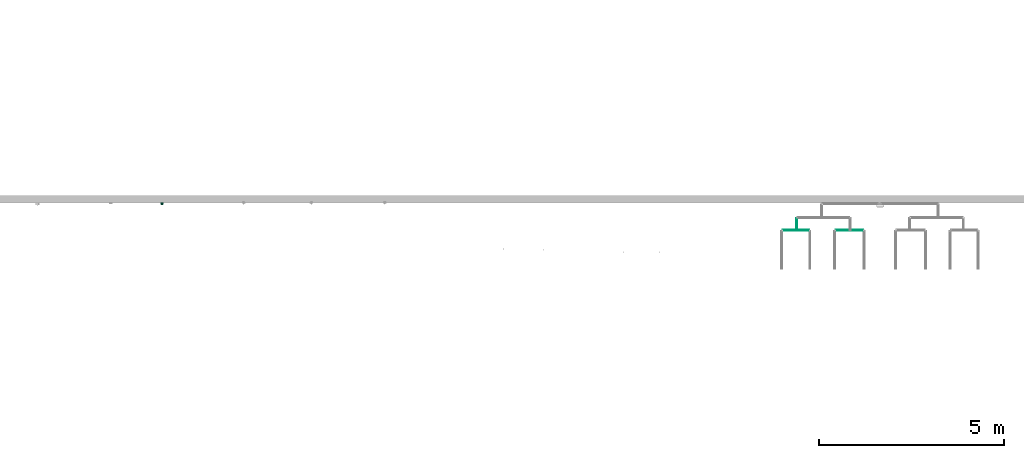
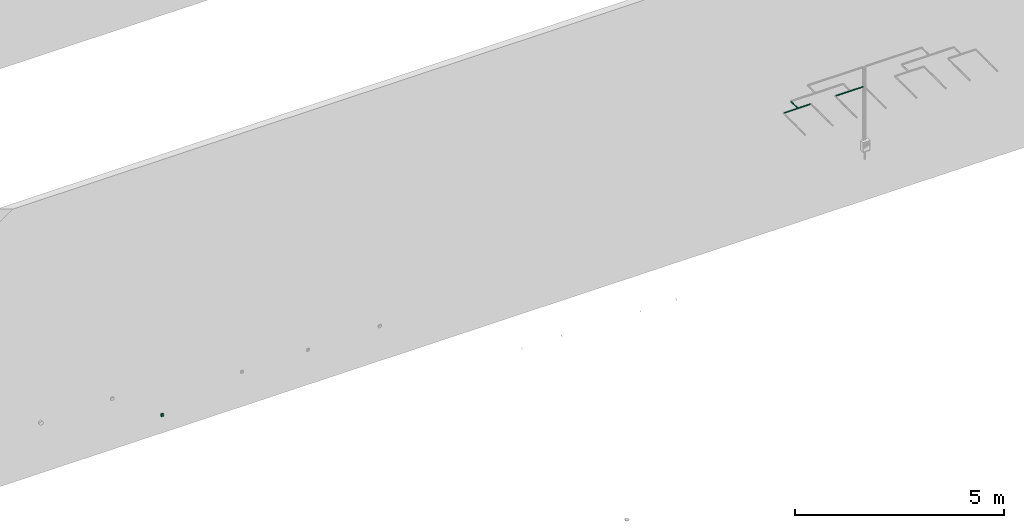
# One storey, part 15 of 197: 3 flow segments, 1 distribution control element.
"""IFC2X3 building model written with IfcOpenShell, lengths in metres."""

from ifc_helpers import new_model, entity, si_unit, converted_unit, direction, frame, frame_2d, origin, origin_2d_with_axis, place, context, subcontext, project, spatial, polyline, rectangle, circle, hollow_circle, outline, extrude, source, transform, mapped, material, material_list, type_object, type_shapes, element, save


model = new_model("IFC2X3")

# Units and contexts
model_context = context("Model", 3, precision=1e-05, world=origin(), true_north=direction((6.123031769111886e-17, 1.0)))
body_context = subcontext(model_context, "Body", "Model", "MODEL_VIEW")
ifc_project = project(units=[si_unit("LENGTHUNIT", "METRE"), converted_unit("PLANEANGLEUNIT", "DEGREE", entity("IfcPlaneAngleMeasure", 0.017453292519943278), si_unit("PLANEANGLEUNIT", "RADIAN"), dimensions=[0, 0, 0, 0, 0, 0, 0]), si_unit("AREAUNIT", "SQUARE_METRE")], contexts=[model_context])

# Site, building, storey
site_placement = place(None, origin())
site = spatial("IfcSite", under=ifc_project, at=site_placement, Name="Default", CompositionType="ELEMENT")
building_placement = place(site_placement, origin())
building = spatial("IfcBuilding", under=site, at=building_placement, CompositionType="ELEMENT")
storey_placement = place(building_placement, origin())
storey = spatial("IfcBuildingStorey", under=building, at=storey_placement, Name="Niveau 0", CompositionType="ELEMENT", Elevation=0.0)

# Distribution control element
ifc_material_1 = material(Name="BETCE-INTERIEUR AIMANT-NOIR")
ifc_material_2 = material(Name="BETCE-BOUTON-ROUGE")
ifc_material_3 = material(Name="BETCE-EXTERIEUR AIMANT-CHROME")
ifc_material_4 = material(Name="BETCE-ENVELOPPE-BEIGE")
ifc_material_list = material_list([ifc_material_1, ifc_material_2, ifc_material_3, ifc_material_4])
alarm_type = type_object("IfcAlarmType", Name="Ventouse:Ventouse", PredefinedType="NOTDEFINED", material=ifc_material_list)
shared_shape = source(origin(), body_context, "Body", "SweptSolid", [
    extrude(hollow_circle(Radius=0.013000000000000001, WallThickness=0.006000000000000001, at=frame_2d((0.0, -5.921929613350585e-17), x_axis=(1.0, 0.0))), frame((0.0, -0.042, 0.02877170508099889), z_axis=(0.0, 1.0, 0.0), x_axis=(1.0, 0.0, 0.0)), (0.0, 0.0, 1.0), 0.002000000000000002),
    extrude(outline(polyline([(-0.0035000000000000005, -0.0035000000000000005), (0.0034999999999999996, -0.0035000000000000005), (0.0034999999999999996, 0.0035000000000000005), (-0.0035000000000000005, 0.0035000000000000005), (-0.0035000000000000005, -0.0035000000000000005)]), holes=[polyline([(-0.0025000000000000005, 0.0025000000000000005), (0.0025000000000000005, 0.0025000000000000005), (0.0025000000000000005, -0.0025000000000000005), (-0.0025000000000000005, -0.0025000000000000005), (-0.0025000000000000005, 0.0025000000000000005)])]), frame((0.0, -0.008632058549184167, -0.001), z_axis=(0.0, 0.0, 1.0), x_axis=(0.0, -1.0, 0.0)), (0.0, 0.0, 1.0), 0.001),
    extrude(rectangle(XDim=0.005000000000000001, YDim=0.005000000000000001, at=origin_2d_with_axis()), frame((0.0, -0.008632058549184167, -0.002), z_axis=(0.0, 0.0, 1.0), x_axis=(-1.0, 0.0, 0.0)), (0.0, 0.0, 1.0), 0.002),
    extrude(circle(Radius=0.007, at=frame_2d((-1.2012774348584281e-20, -2.9609648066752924e-17), x_axis=(1.0, 0.0))), frame((0.0, -0.043000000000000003, 0.02877170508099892), z_axis=(0.0, 1.0, 0.0), x_axis=(1.0, 0.0, 0.0)), (0.0, 0.0, 1.0), 0.0029999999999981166),
    extrude(hollow_circle(Radius=0.018000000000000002, WallThickness=0.005000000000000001, at=frame_2d((0.0, -8.459899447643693e-17), x_axis=(1.0, 0.0))), frame((0.0, -0.043000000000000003, 0.028771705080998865), z_axis=(0.0, 1.0, 0.0), x_axis=(1.0, 0.0, 0.0)), (0.0, 0.0, 1.0), 0.0029999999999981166),
    extrude(rectangle(XDim=0.07000000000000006, YDim=0.03999999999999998, at=frame_2d((0.0, -3.469446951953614e-18), x_axis=(1.0, 0.0))), frame((0.0, -0.020000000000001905, 0.0), z_axis=(0.0, 0.0, 1.0), x_axis=(-1.0, 0.0, 0.0)), (0.0, 0.0, 1.0), 0.085),
])
type_shapes(alarm_type, [shared_shape])
distribution_control_element_placement = place(storey_placement, frame((-524.293595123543, -24.636644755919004, 0.49999999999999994)))
element("IfcDistributionControlElement", 1, at=distribution_control_element_placement, inside=storey, type_object=alarm_type, material=ifc_material_list, Name="Ventouse:Ventouse", ObjectType="Ventouse:Ventouse", context=body_context, shape_type="MappedRepresentation", body=[
    mapped(shared_shape, transform((0.0, 0.0, 0.0), scale=1.0)),
])

# Flow segments
duct_segment_type = type_object("IfcDuctSegmentType", Name="Gaine circulaire:Tubulure-Aspiration", PredefinedType="NOTDEFINED")
flow_segment_1_placement = place(storey_placement, origin())
element("IfcFlowSegment", 2, at=flow_segment_1_placement, inside=storey, type_object=duct_segment_type, Name="Gaine circulaire:Tubulure-Aspiration", ObjectType="Gaine circulaire:Tubulure-Aspiration", context=body_context, shape_type="SweptSolid", body=[
    extrude(circle(Radius=0.0125, at=frame_2d((0.0, -5.414335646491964e-16), x_axis=(1.0, 0.0))), frame((-507.1071226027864, -25.374579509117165, 3.936999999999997), z_axis=(0.0, 1.0, 0.0), x_axis=(-1.0, 0.0, 0.0)), (0.0, 0.0, 1.0), 0.3170000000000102),
])
flow_segment_2_placement = place(storey_placement, origin())
element("IfcFlowSegment", 3, at=flow_segment_2_placement, inside=storey, type_object=duct_segment_type, Name="Gaine circulaire:Tubulure-Aspiration", ObjectType="Gaine circulaire:Tubulure-Aspiration", context=body_context, shape_type="SweptSolid", body=[
    extrude(circle(Radius=0.0125, at=origin_2d_with_axis()), frame((-507.48516166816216, -25.374579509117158, 3.9369999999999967), z_axis=(1.0, 0.0, 0.0), x_axis=(0.0, -1.0, 0.0)), (0.0, 0.0, 1.0), 0.714000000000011),
])
flow_segment_3_placement = place(storey_placement, origin())
element("IfcFlowSegment", 4, at=flow_segment_3_placement, inside=storey, type_object=duct_segment_type, Name="Gaine circulaire:Tubulure-Aspiration", ObjectType="Gaine circulaire:Tubulure-Aspiration", context=body_context, shape_type="SweptSolid", body=[
    extrude(circle(Radius=0.0125, at=origin_2d_with_axis()), frame((-506.0541616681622, -25.37457950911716, 3.9369999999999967), z_axis=(1.0, 0.0, 0.0), x_axis=(0.0, -1.0, 0.0)), (0.0, 0.0, 1.0), 0.7540000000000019),
])

save(model, "model.ifc")
